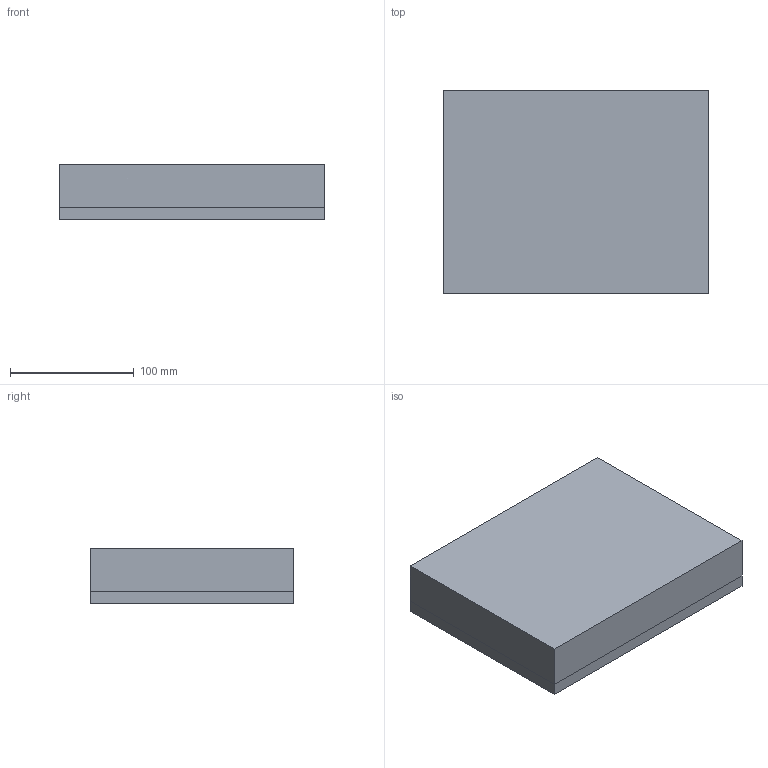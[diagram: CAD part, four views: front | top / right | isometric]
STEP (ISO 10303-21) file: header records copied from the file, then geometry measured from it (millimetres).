
FILE_DESCRIPTION(('CATIA V5 STEP Exchange'),'2;1');
FILE_NAME('C:\_Andres\UNIVERSIDAD\IQS\ASIGNATURAS\DAO\Controles\1920\c2\c2-Murillo_Estrella_Alex.stp','2020-02-10T15:38:23+00:00',('none'),('none'),'CATIA Version 5 Release 19 SP 3 (IN-10)','CATIA V5 STEP AP203','none');
FILE_SCHEMA(('CONFIG_CONTROL_DESIGN'));
Length unit declared in the file: millimetre
Products named in the file (1): c2-Murillo_Estrella_Alex
Bounding box: 215 x 165 x 45 mm (x, y, z)
Surface area: 263927.2 mm2
Topology: 3 solids, 3 shells, 103 faces, 232 edges, 128 vertices
Faces by surface type: cylinder 40, plane 27, bspline 24, sphere 12
Entity records: 3348 total; most frequent: CARTESIAN_POINT 1636, ORIENTED_EDGE 440, DIRECTION 224, EDGE_CURVE 164, EDGE_LOOP 110, ADVANCED_FACE 103, FACE_OUTER_BOUND 103, AXIS2_PLACEMENT_3D 96
